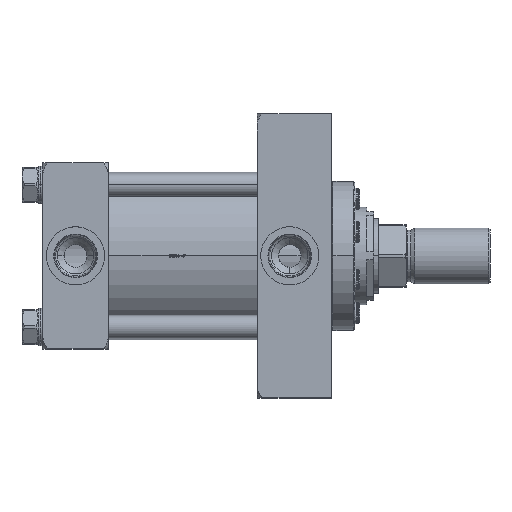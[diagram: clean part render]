
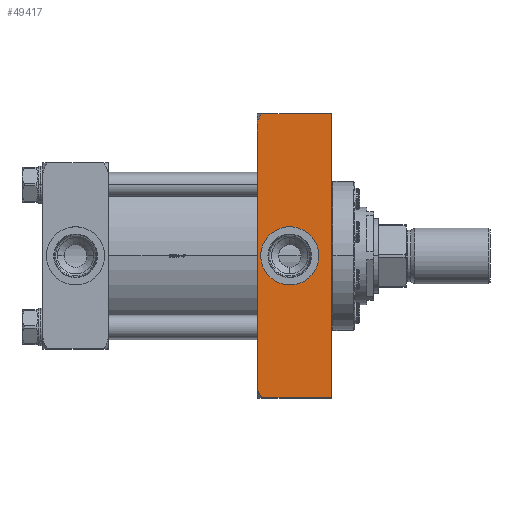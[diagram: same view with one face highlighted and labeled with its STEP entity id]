
A CAD part, top view. The second image highlights one B-rep face of the part: STEP entity #49417.
In plain terms, the highlighted planar face has unit normal (0, 0, 1).
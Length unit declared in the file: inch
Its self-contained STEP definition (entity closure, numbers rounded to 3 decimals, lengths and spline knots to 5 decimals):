
#262 = CARTESIAN_POINT ( 'NONE',  ( -3.125, 0.7815, 2.5 ) ) ;
#810 = LINE ( 'NONE', #35973, #13910 ) ;
#2640 = CARTESIAN_POINT ( 'NONE',  ( -3.97173, -3.64629, 2.5 ) ) ;
#3339 = EDGE_CURVE ( 'NONE', #45551, #92028, #810, .T. ) ;
#3591 = CARTESIAN_POINT ( 'NONE',  ( -4., 3.52637, 2.5 ) ) ;
#4056 = CARTESIAN_POINT ( 'NONE',  ( -3.98563, -3.60735, 2.5 ) ) ;
#4527 = CARTESIAN_POINT ( 'NONE',  ( -3.97202, 3.6469, 2.5 ) ) ;
#4712 = DIRECTION ( 'NONE',  ( 0., 1., 0. ) ) ;
#5517 = DIRECTION ( 'NONE',  ( 1., 0., 0. ) ) ;
#6940 = CARTESIAN_POINT ( 'NONE',  ( -2., -3.8125, 2.5 ) ) ;
#7464 = CARTESIAN_POINT ( 'NONE',  ( -3.125, 0., 2.5 ) ) ;
#8798 = CARTESIAN_POINT ( 'NONE',  ( -4., 3.5125, 2.5 ) ) ;
#9706 = LINE ( 'NONE', #73979, #92619 ) ;
#10711 = CARTESIAN_POINT ( 'NONE',  ( -3.99903, 3.5402, 2.5 ) ) ;
#11173 = CARTESIAN_POINT ( 'NONE',  ( -3.96636, -3.65891, 2.5 ) ) ;
#13141 = LINE ( 'NONE', #6940, #46164 ) ;
#13910 = VECTOR ( 'NONE', #58842, 39.37008 ) ;
#17260 = ORIENTED_EDGE ( 'NONE', *, *, #59423, .F. ) ;
#17369 = CARTESIAN_POINT ( 'NONE',  ( -3.87574, -3.8125, 2.5 ) ) ;
#17635 = B_SPLINE_CURVE_WITH_KNOTS ( 'NONE', 3,
 ( #8798, #3591, #10711, #83903, #90105, #40197, #4527, #75477, #91030, #76876, #55409, #39726 ),
 .UNSPECIFIED., .F., .F.,
 ( 4, 2, 2, 2, 2, 4 ),
 ( 0.00462, 0.00565, 0.00669, 0.00876, 0.01083, 0.01291 ),
 .UNSPECIFIED. ) ;
#19771 = AXIS2_PLACEMENT_3D ( 'NONE', #37159, #52847, #87090 ) ;
#20390 = EDGE_LOOP ( 'NONE', ( #38146, #65943 ) ) ;
#20909 = CARTESIAN_POINT ( 'NONE',  ( -2., -3.8125, 2.5 ) ) ;
#21709 = DIRECTION ( 'NONE',  ( 0., 0., -1. ) ) ;
#25579 = EDGE_LOOP ( 'NONE', ( #60795, #65785, #87521, #87485, #48379, #17260 ) ) ;
#27057 = VERTEX_POINT ( 'NONE', #39028 ) ;
#28186 = VERTEX_POINT ( 'NONE', #79746 ) ;
#30729 = EDGE_CURVE ( 'NONE', #60202, #92028, #13141, .T. ) ;
#32072 = CARTESIAN_POINT ( 'NONE',  ( -3.98136, -3.62055, 2.5 ) ) ;
#32497 = CARTESIAN_POINT ( 'NONE',  ( -3.125, -0.7815, 2.5 ) ) ;
#33664 = FACE_OUTER_BOUND ( 'NONE', #25579, .T. ) ;
#34609 = DIRECTION ( 'NONE',  ( 0., 1., 0. ) ) ;
#35443 = CIRCLE ( 'NONE', #85732, 0.7815 ) ;
#35973 = CARTESIAN_POINT ( 'NONE',  ( -4., 3.8125, 2.5 ) ) ;
#37159 = CARTESIAN_POINT ( 'NONE',  ( -3.125, 0., 2.5 ) ) ;
#38146 = ORIENTED_EDGE ( 'NONE', *, *, #81270, .T. ) ;
#39028 = CARTESIAN_POINT ( 'NONE',  ( -4., 3.5125, 2.5 ) ) ;
#39075 = EDGE_CURVE ( 'NONE', #71720, #51792, #35443, .T. ) ;
#39726 = CARTESIAN_POINT ( 'NONE',  ( -3.87574, 3.8125, 2.5 ) ) ;
#40197 = CARTESIAN_POINT ( 'NONE',  ( -3.98194, 3.62123, 2.5 ) ) ;
#40822 = FACE_BOUND ( 'NONE', #20390, .T. ) ;
#41224 = LINE ( 'NONE', #70279, #86325 ) ;
#45551 = VERTEX_POINT ( 'NONE', #72696 ) ;
#46164 = VECTOR ( 'NONE', #85389, 39.37008 ) ;
#46381 = CARTESIAN_POINT ( 'NONE',  ( -3.89158, -3.7901, 2.5 ) ) ;
#48379 = ORIENTED_EDGE ( 'NONE', *, *, #90771, .F. ) ;
#49417 = ADVANCED_FACE ( 'NONE', ( #33664, #40822 ), #77494, .F. ) ;
#51698 = CIRCLE ( 'NONE', #19771, 0.7815 ) ;
#51792 = VERTEX_POINT ( 'NONE', #262 ) ;
#51874 = VERTEX_POINT ( 'NONE', #82018 ) ;
#52847 = DIRECTION ( 'NONE',  ( 0., 0., -1. ) ) ;
#55409 = CARTESIAN_POINT ( 'NONE',  ( -3.89144, 3.79029, 2.5 ) ) ;
#56042 = CARTESIAN_POINT ( 'NONE',  ( -4., -3.8125, 2.5 ) ) ;
#57213 = B_SPLINE_CURVE_WITH_KNOTS ( 'NONE', 3,
 ( #17369, #46381, #61642, #76396, #67849, #11173, #2640, #32072, #4056, #60692, #68322, #82971 ),
 .UNSPECIFIED., .F., .F.,
 ( 4, 2, 2, 2, 2, 4 ),
 ( 0.0094, 0.01149, 0.01358, 0.01462, 0.01566, 0.01775 ),
 .UNSPECIFIED. ) ;
#58842 = DIRECTION ( 'NONE',  ( 1., 0., 0. ) ) ;
#59423 = EDGE_CURVE ( 'NONE', #51874, #27057, #9706, .T. ) ;
#60202 = VERTEX_POINT ( 'NONE', #20909 ) ;
#60692 = CARTESIAN_POINT ( 'NONE',  ( -3.99615, -3.56719, 2.5 ) ) ;
#60795 = ORIENTED_EDGE ( 'NONE', *, *, #90811, .F. ) ;
#61642 = CARTESIAN_POINT ( 'NONE',  ( -3.90688, -3.76724, 2.5 ) ) ;
#61743 = CARTESIAN_POINT ( 'NONE',  ( -2., 3.8125, 2.5 ) ) ;
#65785 = ORIENTED_EDGE ( 'NONE', *, *, #71024, .T. ) ;
#65943 = ORIENTED_EDGE ( 'NONE', *, *, #39075, .T. ) ;
#67849 = CARTESIAN_POINT ( 'NONE',  ( -3.94894, -3.69614, 2.5 ) ) ;
#68322 = CARTESIAN_POINT ( 'NONE',  ( -4., -3.54006, 2.5 ) ) ;
#69900 = DIRECTION ( 'NONE',  ( 0., 0., -1. ) ) ;
#70279 = CARTESIAN_POINT ( 'NONE',  ( -4., -3.8125, 2.5 ) ) ;
#71024 = EDGE_CURVE ( 'NONE', #28186, #60202, #41224, .T. ) ;
#71720 = VERTEX_POINT ( 'NONE', #32497 ) ;
#72696 = CARTESIAN_POINT ( 'NONE',  ( -3.87574, 3.8125, 2.5 ) ) ;
#73979 = CARTESIAN_POINT ( 'NONE',  ( -4., -3.8125, 2.5 ) ) ;
#75349 = AXIS2_PLACEMENT_3D ( 'NONE', #56042, #69900, #4712 ) ;
#75477 = CARTESIAN_POINT ( 'NONE',  ( -3.94847, 3.69706, 2.5 ) ) ;
#76396 = CARTESIAN_POINT ( 'NONE',  ( -3.93562, -3.72016, 2.5 ) ) ;
#76876 = CARTESIAN_POINT ( 'NONE',  ( -3.90659, 3.76767, 2.5 ) ) ;
#77494 = PLANE ( 'NONE',  #75349 ) ;
#79746 = CARTESIAN_POINT ( 'NONE',  ( -3.87574, -3.8125, 2.5 ) ) ;
#80130 = DIRECTION ( 'NONE',  ( 0., 1., 0. ) ) ;
#81270 = EDGE_CURVE ( 'NONE', #51792, #71720, #51698, .T. ) ;
#82018 = CARTESIAN_POINT ( 'NONE',  ( -4., -3.5125, 2.5 ) ) ;
#82971 = CARTESIAN_POINT ( 'NONE',  ( -4., -3.5125, 2.5 ) ) ;
#83903 = CARTESIAN_POINT ( 'NONE',  ( -3.99525, 3.56781, 2.5 ) ) ;
#85389 = DIRECTION ( 'NONE',  ( 0., 1., 0. ) ) ;
#85732 = AXIS2_PLACEMENT_3D ( 'NONE', #7464, #21709, #34609 ) ;
#86325 = VECTOR ( 'NONE', #5517, 39.37008 ) ;
#87090 = DIRECTION ( 'NONE',  ( 0., 1., 0. ) ) ;
#87485 = ORIENTED_EDGE ( 'NONE', *, *, #3339, .F. ) ;
#87521 = ORIENTED_EDGE ( 'NONE', *, *, #30729, .T. ) ;
#90105 = CARTESIAN_POINT ( 'NONE',  ( -3.99247, 3.58134, 2.5 ) ) ;
#90771 = EDGE_CURVE ( 'NONE', #27057, #45551, #17635, .T. ) ;
#90811 = EDGE_CURVE ( 'NONE', #28186, #51874, #57213, .T. ) ;
#91030 = CARTESIAN_POINT ( 'NONE',  ( -3.93509, 3.72107, 2.5 ) ) ;
#92028 = VERTEX_POINT ( 'NONE', #61743 ) ;
#92619 = VECTOR ( 'NONE', #80130, 39.37008 ) ;
